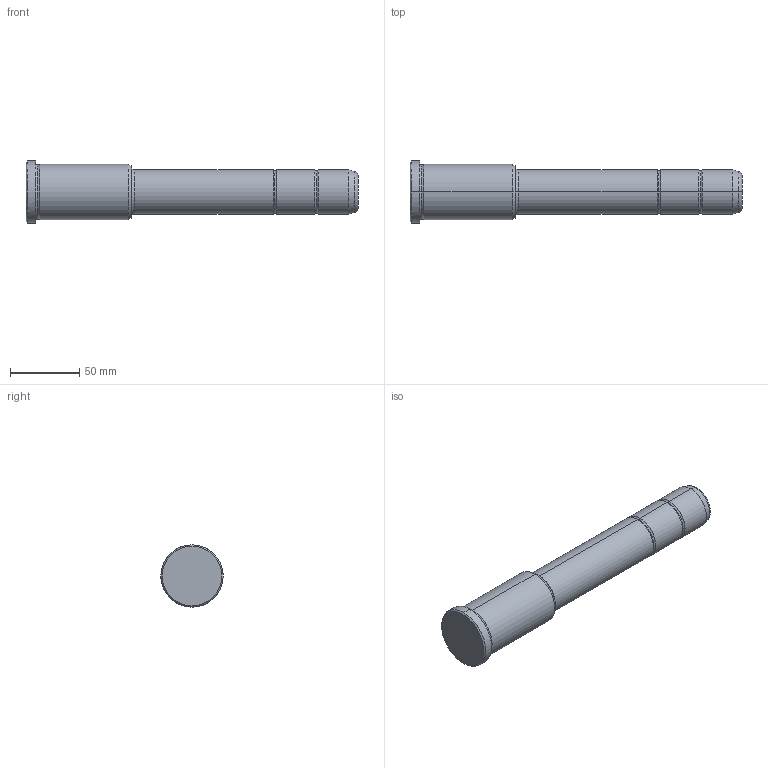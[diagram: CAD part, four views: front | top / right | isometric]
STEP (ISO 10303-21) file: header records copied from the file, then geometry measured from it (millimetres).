
FILE_DESCRIPTION(('CATIA V5 STEP Exchange'),'2;1');
FILE_NAME('C:\Users\Utente\Desktop\IO LAVORO\3D X SITO CF\X SITO\PLASTICA\351\351-32X76X240.stp','2021-09-07T13:50:37+00:00',('none'),('none'),'CATIA Version 5 Release 20 GA (IN-10)','CATIA V5 STEP AP203','none');
FILE_SCHEMA(('CONFIG_CONTROL_DESIGN'));
Length unit declared in the file: millimetre
Products named in the file (1): 351-32X76X240
Bounding box: 240 x 45 x 45 mm (x, y, z)
Volume: 228532.3 mm3; surface area: 28899 mm2
Topology: 1 solids, 1 shells, 36 faces, 102 edges, 70 vertices
Faces by surface type: torus 16, cylinder 10, cone 6, plane 4
Entity records: 1292 total; most frequent: CARTESIAN_POINT 321, ORIENTED_EDGE 204, DIRECTION 166, AXIS2_PLACEMENT_3D 115, EDGE_CURVE 102, CIRCLE 78, VERTEX_POINT 70, EDGE_LOOP 38
